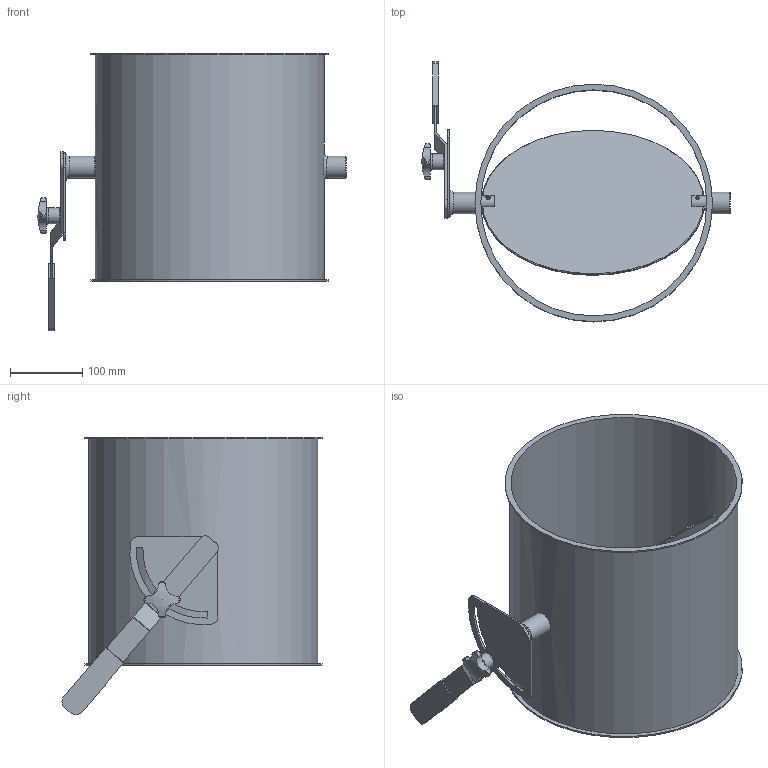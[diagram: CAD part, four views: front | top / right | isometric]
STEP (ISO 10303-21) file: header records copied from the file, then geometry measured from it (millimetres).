
FILE_DESCRIPTION((''),'2;1');
FILE_NAME('U:\Wolfgang\Marcel-3D\fertig\Kapitel 8\3121075.stp','2012-01-13T11:20:13',('iwienholt'),(''),'Autodesk Inventor 2010','Autodesk Inventor 2010','');
FILE_SCHEMA(('AUTOMOTIVE_DESIGN { 1 0 10303 214 1 1 1 1 }'));
Length unit declared in the file: millimetre
Products named in the file (7): 3121075; Bolzen D20; ganter_din_6335-ku-50-m10-k; Griff D20; Scheibe315; Umstellsegment D20; 3121075-1
Assembly tree (6 placements, depth 2):
  3121075
    Bolzen D20
    ganter_din_6335-ku-50-m10-k
    Griff D20
    Scheibe315
    Umstellsegment D20
    3121075-1
Bounding box: 426 x 359.25 x 383.57 mm (x, y, z)
Volume: 1029917.9 mm3; surface area: 869991.8 mm2
Topology: 6 solids, 6 shells, 119 faces, 304 edges, 206 vertices
Faces by surface type: plane 51, cylinder 46, torus 9, bspline 7, cone 5, sphere 1
Full cylindrical faces by diameter (mm): 6 x4, 8 x1, 9 x1, 10 x2, 16 x1, 20 x6, 22 x1, 30 x3, 308 x1, 312 x1, 316 x1, 328 x2
Entity records: 4475 total; most frequent: CARTESIAN_POINT 1610, DIRECTION 566, ORIENTED_EDGE 492, EDGE_CURVE 246, AXIS2_PLACEMENT_3D 240, EDGE_LOOP 188, VERTEX_POINT 186, FACE_OUTER_BOUND 119
